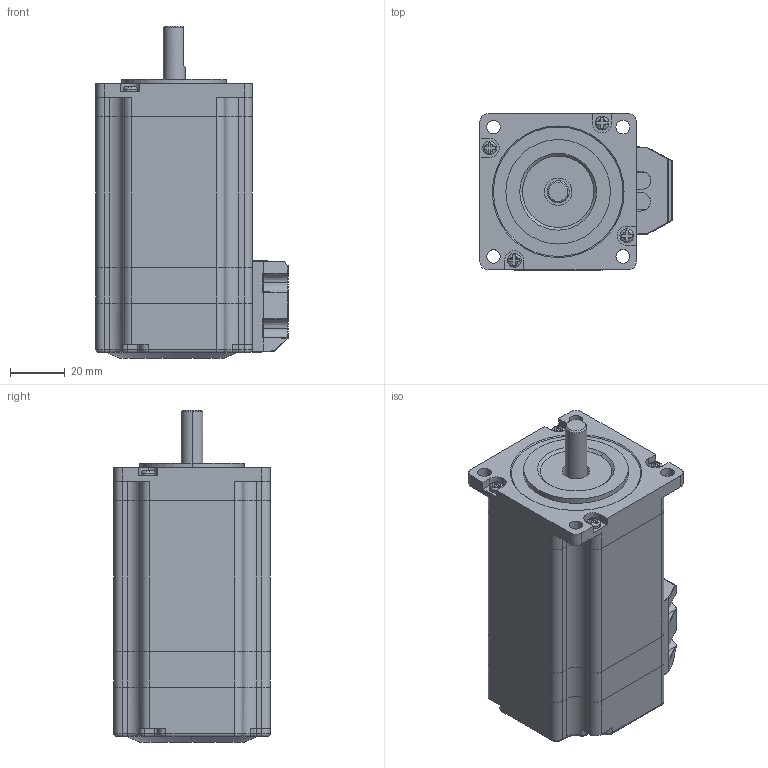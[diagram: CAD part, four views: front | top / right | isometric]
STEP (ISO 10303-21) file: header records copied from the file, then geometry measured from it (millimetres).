
FILE_DESCRIPTION (( 'STEP AP203' ), '1' );
FILE_NAME ('57J1880EC-1000-LS-01.STEP', '2022-07-06T02:37:24', ( 'USER-' ), ( 'MS' ), 'SwSTEP 2.0', 'SolidWorks 2018', '' );
FILE_SCHEMA (( 'CONFIG_CONTROL_DESIGN' ));
Length unit declared in the file: millimetre
Products named in the file (7): 57_____1.STEP^57J1854EC-1000-LS(2)_57J1854EC-1000-LS; 57_________1.STEP^57J1854EC-1000-LS(2)_57J1854EC-1000-LS; 57_____1-0.STEP^57J1854EC-1000-LS(2)_57J1854EC-1000-LS; S-HK-14004.STEP^57J1854EC-1000-LS(2)_57J1854EC-1000-LS; 57 LS____.STEP^57J1854EC-1000-LS(2)_57J1854EC-1000-LS; 57J1880EC-1000-LS-01; _______1.STEP^57J1854EC-1000-LS(2)_57J1854EC-1000-LS
Assembly tree (9 placements, depth 2):
  57J1880EC-1000-LS-01
    _______1.STEP^57J1854EC-1000-LS(2)_57J1854EC-1000-LS  x4
    57_____1.STEP^57J1854EC-1000-LS(2)_57J1854EC-1000-LS
    57_________1.STEP^57J1854EC-1000-LS(2)_57J1854EC-1000-LS
    57_____1-0.STEP^57J1854EC-1000-LS(2)_57J1854EC-1000-LS
    S-HK-14004.STEP^57J1854EC-1000-LS(2)_57J1854EC-1000-LS
    57 LS____.STEP^57J1854EC-1000-LS(2)_57J1854EC-1000-LS
Bounding box: 70 x 57 x 121 mm (x, y, z)
Volume: 262179.5 mm3; surface area: 55769.6 mm2
Topology: 9 solids, 9 shells, 538 faces, 1415 edges, 901 vertices
Faces by surface type: plane 235, cylinder 203, bspline 38, torus 28, sphere 18, cone 16
Entity records: 16216 total; most frequent: CARTESIAN_POINT 4005, ORIENTED_EDGE 2436, DIRECTION 2386, EDGE_CURVE 1218, AXIS2_PLACEMENT_3D 878, VERTEX_POINT 775, LINE 630, VECTOR 630
